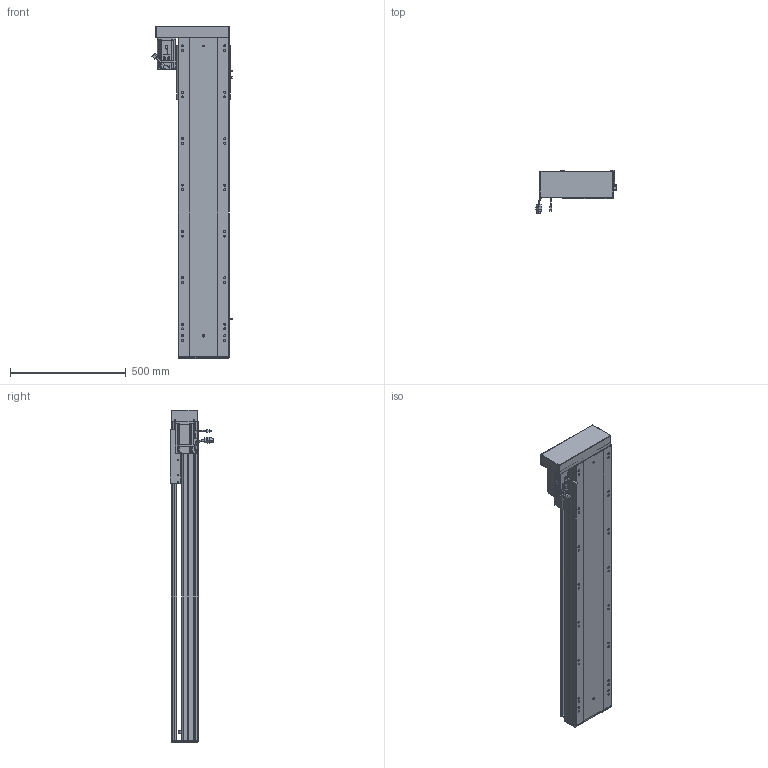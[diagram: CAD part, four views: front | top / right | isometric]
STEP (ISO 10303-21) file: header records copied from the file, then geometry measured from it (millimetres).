
FILE_DESCRIPTION (( 'STEP AP203' ), '1' );
FILE_NAME ('RY220-L2525-300-LK.SLDASM_1050.step', '2022-07-04T01:47:01', ( '' ), ( '' ), 'SwSTEP 2.0', 'SolidWorks 2016', '' );
FILE_SCHEMA (( 'CONFIG_CONTROL_DESIGN' ));
Length unit declared in the file: millimetre
Products named in the file (12): RY220左右折电机安装板; 滅袉蝶18-15; RY220半封闭25-32螺母铝滑块; 滅袉蝶18-10; RY220綴裔啣; RY220蛌殏菁釱-300_1050; 覜茼ん672; RY220-L2525-300-LK.SLDASM_1050; 怢湛750W_ECMA-CX0807ES; RY220-俋离672覜茼んえ; RY220-300-蛌殏奻裔啣_1050; RY220酘衵殏萇儂欶
Assembly tree (15 placements, depth 2):
  RY220-L2525-300-LK.SLDASM_1050
    RY220蛌殏菁釱-300_1050
    RY220-300-蛌殏奻裔啣_1050
    怢湛750W_ECMA-CX0807ES
    滅袉蝶18-10  x2
    RY220-俋离672覜茼んえ
    覜茼ん672  x3
    RY220綴裔啣
    RY220半封闭25-32螺母铝滑块
    滅袉蝶18-15  x2
    RY220左右折电机安装板
    RY220酘衵殏萇儂欶
Bounding box: 347.44 x 189.27 x 1432 mm (x, y, z)
Volume: 11880171.8 mm3; surface area: 3484193.7 mm2
Topology: 16 solids, 16 shells, 2177 faces, 6008 edges, 3797 vertices
Faces by surface type: cylinder 985, plane 896, cone 226, bspline 44, sphere 16, torus 10
Entity records: 71917 total; most frequent: CARTESIAN_POINT 20885, ORIENTED_EDGE 10592, DIRECTION 9968, EDGE_CURVE 5296, AXIS2_PLACEMENT_3D 3507, VERTEX_POINT 3453, LINE 2954, VECTOR 2954
